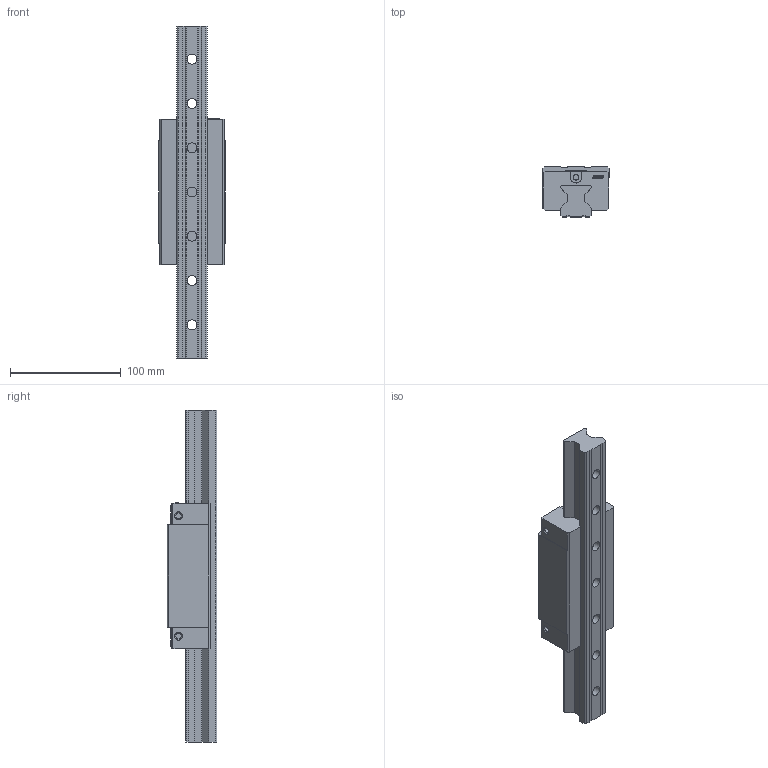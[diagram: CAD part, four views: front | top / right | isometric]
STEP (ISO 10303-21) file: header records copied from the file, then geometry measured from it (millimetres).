
FILE_DESCRIPTION(/* description */ (''),/* implementation_level */ '2;1');
FILE_NAME(/* name */ 'SRH30HA.stp',/* time_stamp */ '2022-01-22T15:15:22+08:00',/* author */ (''),/* organization */ (''),/* preprocessor_version */ 'ST-DEVELOPER v15',/* originating_system */ 'SIEMENS PLM Software NX 8.5',/* authorisation */ '');
FILE_SCHEMA (('CONFIG_CONTROL_DESIGN'));
Length unit declared in the file: millimetre
Products named in the file (1): _model1
Bounding box: 60 x 45 x 300 mm (x, y, z)
Volume: 399176.8 mm3; surface area: 81368.2 mm2
Topology: 2 solids, 2 shells, 246 faces, 669 edges, 450 vertices
Faces by surface type: plane 119, extrusion 89, cylinder 28, cone 10
Full cylindrical faces by diameter (mm): 5 x6, 6.75 x6, 9 x7, 14 x7
Entity records: 8326 total; most frequent: CARTESIAN_POINT 2425, ORIENTED_EDGE 1254, DIRECTION 936, EDGE_CURVE 627, VECTOR 456, VERTEX_POINT 444, LINE 367, EDGE_LOOP 323
